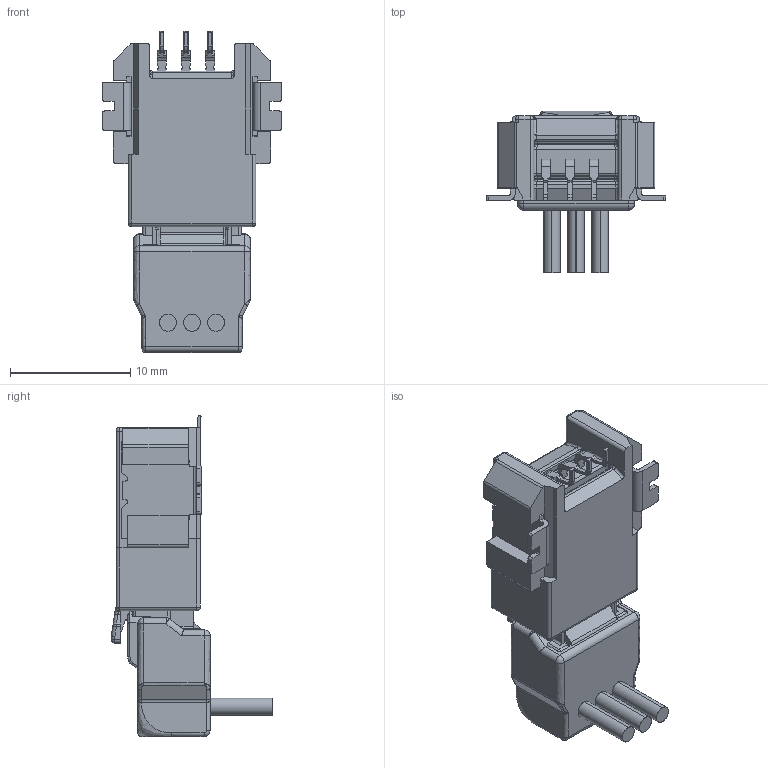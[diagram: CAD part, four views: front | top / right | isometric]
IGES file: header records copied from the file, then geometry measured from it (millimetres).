
Start section: SolidWorks IGES file using analytic representation for surfaces
Global section: file name: C:\Users\08803\Desktop\PDM\ISH全シリーズモデル(STEP)2017.2.6時点\水平\1列\3P\ISH 3P CONNECTOR with CABLE COVER.IGS; native system: SolidWorks 2017; preprocessor: SolidWorks 2017; author: 08803; date: 180820.135817; units: millimetre
Bounding box: 14.9 x 13.4 x 26.65 mm (x, y, z)
Surface area: 1289.7 mm2 (no closed solid volume)
Topology: 0 solids, 0 shells, 567 faces, 3865 edges, 3835 vertices
Faces by surface type: bspline 335, revolution 232
